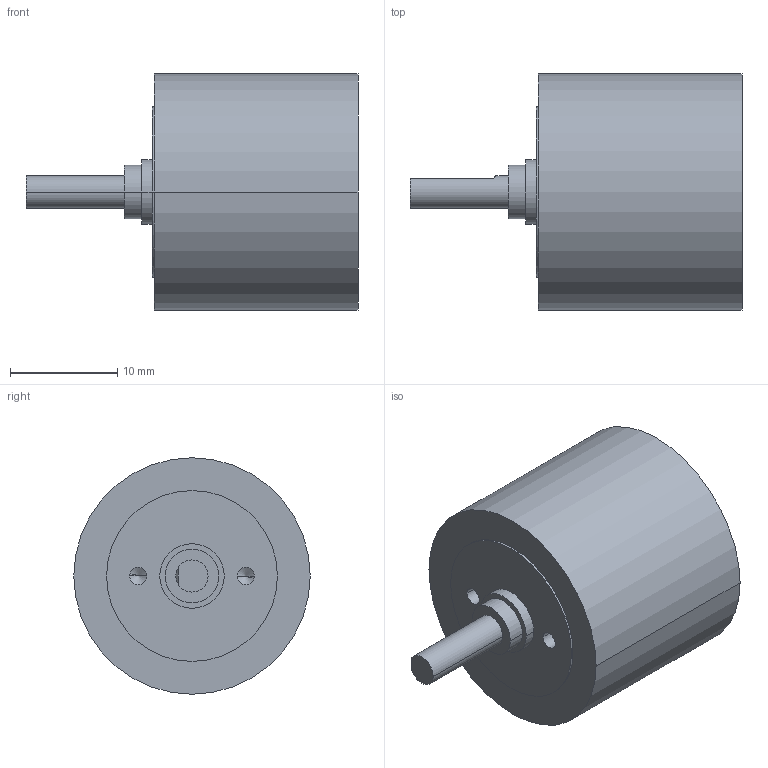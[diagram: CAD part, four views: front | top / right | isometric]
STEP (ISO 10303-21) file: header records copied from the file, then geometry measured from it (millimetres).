
FILE_DESCRIPTION((''),'2;1');
FILE_NAME('1118168','2010-02-04T',('MMAGMIBU'),(''),'PRO/ENGINEER BY PARAMETRIC TECHNOLOGY CORPORATION, 2009230','PRO/ENGINEER BY PARAMETRIC TECHNOLOGY CORPORATION, 2009230','');
FILE_SCHEMA(('CONFIG_CONTROL_DESIGN'));
Length unit declared in the file: millimetre
Products named in the file (1): 1118168
Bounding box: 30.9 x 22 x 22 mm (x, y, z)
Volume: 6591.7 mm3; surface area: 2396.6 mm2
Topology: 1 solids, 1 shells, 29 faces, 62 edges, 38 vertices
Faces by surface type: cylinder 16, plane 9, cone 4
Entity records: 807 total; most frequent: DIRECTION 146, CARTESIAN_POINT 130, ORIENTED_EDGE 116, AXIS2_PLACEMENT_3D 61, EDGE_CURVE 58, VERTEX_POINT 38, EDGE_LOOP 36, CIRCLE 32
